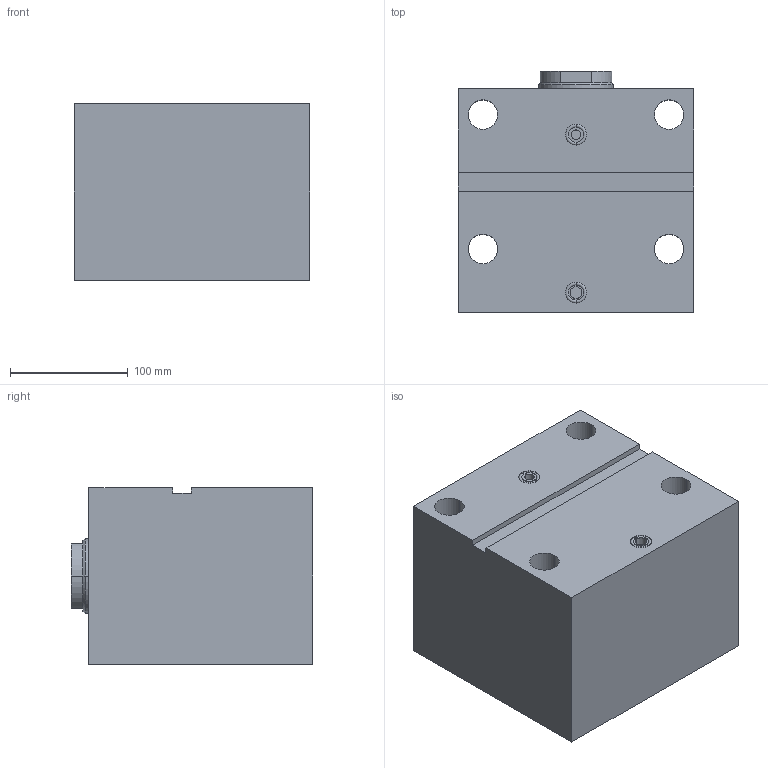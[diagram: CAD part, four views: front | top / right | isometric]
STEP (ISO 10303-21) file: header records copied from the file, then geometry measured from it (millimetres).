
FILE_DESCRIPTION (( 'STEP AP203' ), '1' );
FILE_NAME ('GERMA_Blockzylinder_603-100-100.STEP', '2016-01-25T10:41:12', ( '' ), ( '' ), 'SwSTEP 2.0', 'SolidWorks 2015', '' );
FILE_SCHEMA (( 'CONFIG_CONTROL_DESIGN' ));
Length unit declared in the file: millimetre
Products named in the file (3): GERMA_Blockzylinder_603-100-100; GH-600-100_GH-603-100-100; Kolben 60x-100_Kolben DU.100-Hub100-IG
Assembly tree (2 placements, depth 2):
  GERMA_Blockzylinder_603-100-100
    GH-600-100_GH-603-100-100
    Kolben 60x-100_Kolben DU.100-Hub100-IG
Bounding box: 200 x 205 x 150 mm (x, y, z)
Volume: 4872200.3 mm3; surface area: 361205.7 mm2
Topology: 2 solids, 2 shells, 85 faces, 188 edges, 114 vertices
Faces by surface type: cylinder 41, plane 26, cone 14, torus 4
Entity records: 2638 total; most frequent: DIRECTION 459, CARTESIAN_POINT 386, ORIENTED_EDGE 364, AXIS2_PLACEMENT_3D 187, EDGE_CURVE 182, VERTEX_POINT 114, EDGE_LOOP 106, CIRCLE 97
